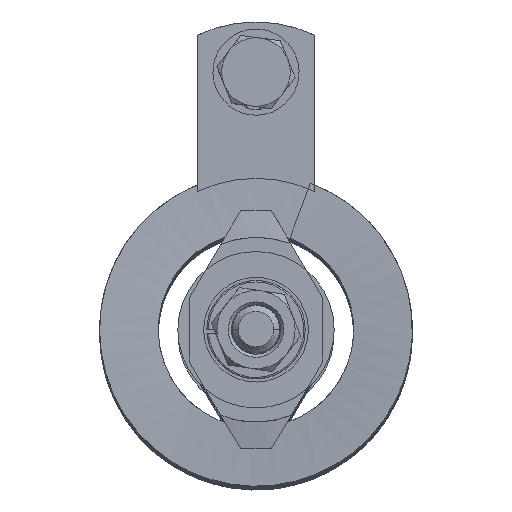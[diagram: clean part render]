
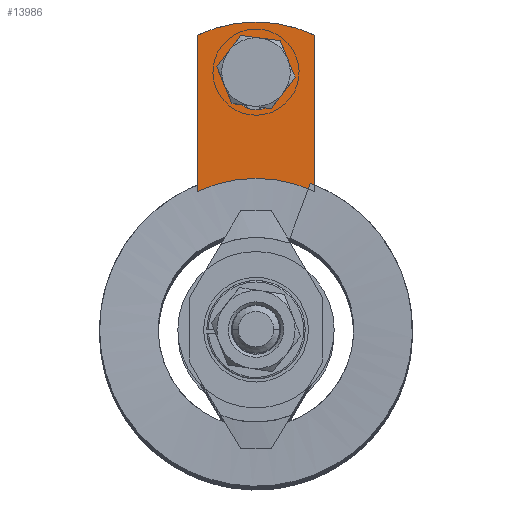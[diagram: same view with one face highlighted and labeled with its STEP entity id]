
A CAD part, top view. The second image highlights one B-rep face of the part: STEP entity #13986.
In plain terms, the highlighted planar face has unit normal (0, 0, 1).
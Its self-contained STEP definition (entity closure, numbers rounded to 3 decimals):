
#4678 = EDGE_LOOP ( 'NONE', ( #48944, #48931, #48937, #48940, #48098 ) ) ;
#4747 = EDGE_LOOP ( 'NONE', ( #48088, #48078, #48651, #48507, #48717, #48396 ) ) ;
#8760 = CARTESIAN_POINT ( 'NONE',  ( 19.05, 0., 0. ) ) ;
#8761 = CARTESIAN_POINT ( 'NONE',  ( 8.136, -3.373, 0. ) ) ;
#8762 = CARTESIAN_POINT ( 'NONE',  ( -8.495, -9.525, 0. ) ) ;
#8763 = CARTESIAN_POINT ( 'NONE',  ( 10.914, -3.373, 0. ) ) ;
#8765 = CARTESIAN_POINT ( 'NONE',  ( 16.905, 9.525, 0. ) ) ;
#8766 = CARTESIAN_POINT ( 'NONE',  ( 16.905, -9.525, 0. ) ) ;
#8769 = CARTESIAN_POINT ( 'NONE',  ( 14.287, 0., 0. ) ) ;
#8770 = CARTESIAN_POINT ( 'NONE',  ( 10.914, 3.373, 0. ) ) ;
#8773 = CARTESIAN_POINT ( 'NONE',  ( -6.35, 0., 0. ) ) ;
#8774 = CARTESIAN_POINT ( 'NONE',  ( -8.495, 9.525, 0. ) ) ;
#8783 = CARTESIAN_POINT ( 'NONE',  ( 8.136, 3.373, 0. ) ) ;
#9728 = CARTESIAN_POINT ( 'NONE',  ( -3.175, 0., 0. ) ) ;
#9731 = DIRECTION ( 'NONE',  ( 0., 0., 1. ) ) ;
#9734 = DIRECTION ( 'NONE',  ( 1., 0., 0. ) ) ;
#11531 = CIRCLE ( 'NONE', #80186, 22.225 ) ;
#13573 = EDGE_CURVE ( 'NONE', #85456, #85454, #26434, .T. ) ;
#13581 = EDGE_CURVE ( 'NONE', #85447, #85445, #26445, .T. ) ;
#13610 = EDGE_CURVE ( 'NONE', #85436, #85434, #26480, .T. ) ;
#13611 = EDGE_CURVE ( 'NONE', #85423, #85438, #26484, .T. ) ;
#13612 = EDGE_CURVE ( 'NONE', #85454, #85423, #26485, .T. ) ;
#13613 = EDGE_CURVE ( 'NONE', #85434, #85456, #26487, .T. ) ;
#13614 = EDGE_CURVE ( 'NONE', #85421, #85475, #26488, .T. ) ;
#13615 = EDGE_CURVE ( 'NONE', #85425, #85421, #26490, .T. ) ;
#13619 = EDGE_CURVE ( 'NONE', #85445, #85425, #26482, .T. ) ;
#13621 = EDGE_CURVE ( 'NONE', #85475, #85447, #26497, .T. ) ;
#13986 = ADVANCED_FACE ( 'NONE', ( #74542, #74547 ), #123575, .T. ) ;
#26434 = CIRCLE ( 'NONE', #54172, 22.225 ) ;
#26445 = CIRCLE ( 'NONE', #54177, 3.373 ) ;
#26480 = CIRCLE ( 'NONE', #54189, 22.225 ) ;
#26482 = CIRCLE ( 'NONE', #54195, 3.373 ) ;
#26484 = LINE ( 'NONE', #93929, #26486 ) ;
#26485 = CIRCLE ( 'NONE', #54190, 22.225 ) ;
#26486 = VECTOR ( 'NONE', #93937, 1000. ) ;
#26487 = LINE ( 'NONE', #93925, #26489 ) ;
#26488 = CIRCLE ( 'NONE', #54191, 3.373 ) ;
#26489 = VECTOR ( 'NONE', #93923, 1000. ) ;
#26490 = LINE ( 'NONE', #93913, #26492 ) ;
#26492 = VECTOR ( 'NONE', #93910, 1000. ) ;
#26497 = LINE ( 'NONE', #93864, #26499 ) ;
#26499 = VECTOR ( 'NONE', #93862, 1000. ) ;
#48078 = ORIENTED_EDGE ( 'NONE', *, *, #13573, .T. ) ;
#48088 = ORIENTED_EDGE ( 'NONE', *, *, #13613, .T. ) ;
#48098 = ORIENTED_EDGE ( 'NONE', *, *, #13614, .T. ) ;
#48396 = ORIENTED_EDGE ( 'NONE', *, *, #13610, .T. ) ;
#48507 = ORIENTED_EDGE ( 'NONE', *, *, #13611, .T. ) ;
#48651 = ORIENTED_EDGE ( 'NONE', *, *, #13612, .T. ) ;
#48717 = ORIENTED_EDGE ( 'NONE', *, *, #122947, .T. ) ;
#48931 = ORIENTED_EDGE ( 'NONE', *, *, #13581, .T. ) ;
#48937 = ORIENTED_EDGE ( 'NONE', *, *, #13619, .T. ) ;
#48940 = ORIENTED_EDGE ( 'NONE', *, *, #13615, .T. ) ;
#48944 = ORIENTED_EDGE ( 'NONE', *, *, #13621, .T. ) ;
#54172 = AXIS2_PLACEMENT_3D ( 'NONE', #94195, #94193, #94191 ) ;
#54177 = AXIS2_PLACEMENT_3D ( 'NONE', #94142, #94137, #94140 ) ;
#54189 = AXIS2_PLACEMENT_3D ( 'NONE', #93921, #93919, #93917 ) ;
#54190 = AXIS2_PLACEMENT_3D ( 'NONE', #93908, #93906, #93904 ) ;
#54191 = AXIS2_PLACEMENT_3D ( 'NONE', #93897, #93895, #93893 ) ;
#54195 = AXIS2_PLACEMENT_3D ( 'NONE', #93860, #93858, #93856 ) ;
#74542 = FACE_BOUND ( 'NONE', #4678, .T. ) ;
#74547 = FACE_OUTER_BOUND ( 'NONE', #4747, .T. ) ;
#80186 = AXIS2_PLACEMENT_3D ( 'NONE', #9728, #9731, #9734 ) ;
#85421 = VERTEX_POINT ( 'NONE', #8761 ) ;
#85423 = VERTEX_POINT ( 'NONE', #8762 ) ;
#85425 = VERTEX_POINT ( 'NONE', #8763 ) ;
#85434 = VERTEX_POINT ( 'NONE', #8765 ) ;
#85436 = VERTEX_POINT ( 'NONE', #8760 ) ;
#85438 = VERTEX_POINT ( 'NONE', #8766 ) ;
#85445 = VERTEX_POINT ( 'NONE', #8769 ) ;
#85447 = VERTEX_POINT ( 'NONE', #8770 ) ;
#85454 = VERTEX_POINT ( 'NONE', #8773 ) ;
#85456 = VERTEX_POINT ( 'NONE', #8774 ) ;
#85475 = VERTEX_POINT ( 'NONE', #8783 ) ;
#93856 = DIRECTION ( 'NONE',  ( 1., 0., 0. ) ) ;
#93858 = DIRECTION ( 'NONE',  ( 0., 0., -1. ) ) ;
#93860 = CARTESIAN_POINT ( 'NONE',  ( 10.914, 0., 0. ) ) ;
#93862 = DIRECTION ( 'NONE',  ( 1., 0., 0. ) ) ;
#93864 = CARTESIAN_POINT ( 'NONE',  ( 0., 3.373, 0. ) ) ;
#93893 = DIRECTION ( 'NONE',  ( 1., 0., 0. ) ) ;
#93895 = DIRECTION ( 'NONE',  ( 0., 0., -1. ) ) ;
#93897 = CARTESIAN_POINT ( 'NONE',  ( 8.136, 0., 0. ) ) ;
#93904 = DIRECTION ( 'NONE',  ( 1., 0., 0. ) ) ;
#93906 = DIRECTION ( 'NONE',  ( 0., 0., -1. ) ) ;
#93908 = CARTESIAN_POINT ( 'NONE',  ( -28.575, 0., 0. ) ) ;
#93910 = DIRECTION ( 'NONE',  ( -1., 0., 0. ) ) ;
#93913 = CARTESIAN_POINT ( 'NONE',  ( 0., -3.373, 0. ) ) ;
#93917 = DIRECTION ( 'NONE',  ( 1., 0., 0. ) ) ;
#93919 = DIRECTION ( 'NONE',  ( 0., 0., 1. ) ) ;
#93921 = CARTESIAN_POINT ( 'NONE',  ( -3.175, 0., 0. ) ) ;
#93923 = DIRECTION ( 'NONE',  ( -1., 0., 0. ) ) ;
#93925 = CARTESIAN_POINT ( 'NONE',  ( 19.05, 9.525, 0. ) ) ;
#93929 = CARTESIAN_POINT ( 'NONE',  ( 19.05, -9.525, 0. ) ) ;
#93937 = DIRECTION ( 'NONE',  ( 1., 0., 0. ) ) ;
#94137 = DIRECTION ( 'NONE',  ( 0., 0., -1. ) ) ;
#94140 = DIRECTION ( 'NONE',  ( 1., 0., 0. ) ) ;
#94142 = CARTESIAN_POINT ( 'NONE',  ( 10.914, 0., 0. ) ) ;
#94191 = DIRECTION ( 'NONE',  ( 1., 0., 0. ) ) ;
#94193 = DIRECTION ( 'NONE',  ( 0., 0., -1. ) ) ;
#94195 = CARTESIAN_POINT ( 'NONE',  ( -28.575, 0., 0. ) ) ;
#121535 = AXIS2_PLACEMENT_3D ( 'NONE', #123572, #123566, #123579 ) ;
#122947 = EDGE_CURVE ( 'NONE', #85438, #85436, #11531, .T. ) ;
#123566 = DIRECTION ( 'NONE',  ( 0., 0., 1. ) ) ;
#123572 = CARTESIAN_POINT ( 'NONE',  ( 0., 0., 0. ) ) ;
#123575 = PLANE ( 'NONE',  #121535 ) ;
#123579 = DIRECTION ( 'NONE',  ( 1., 0., 0. ) ) ;
